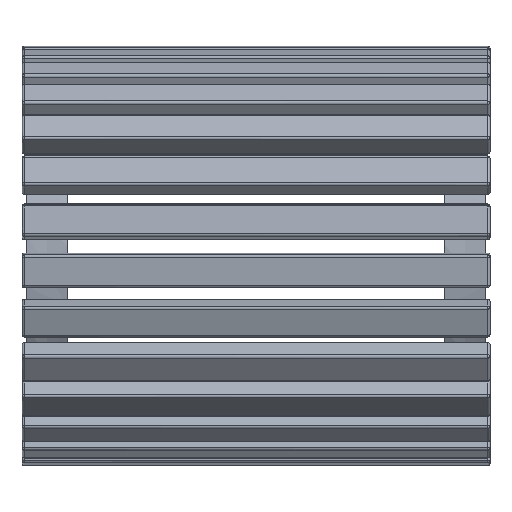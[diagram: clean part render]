
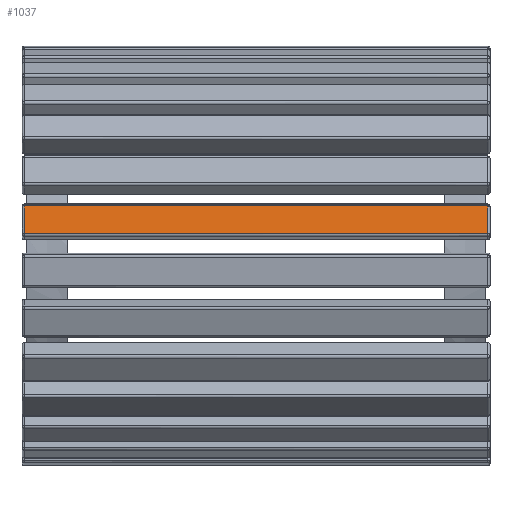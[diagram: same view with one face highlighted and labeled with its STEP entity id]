
A CAD part, top view. The second image highlights one B-rep face of the part: STEP entity #1037.
In plain terms, the highlighted planar face has unit normal (0, 0.16, 0.987).
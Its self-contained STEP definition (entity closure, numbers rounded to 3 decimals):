
#1037=ADVANCED_FACE('',(#1863),#11003,.T.);
#1863=FACE_OUTER_BOUND('',#2741,.T.);
#2741=EDGE_LOOP('',(#5004,#5005,#5006,#5007));
#5004=ORIENTED_EDGE('',*,*,#7491,.F.);
#5005=ORIENTED_EDGE('',*,*,#7495,.F.);
#5006=ORIENTED_EDGE('',*,*,#7505,.F.);
#5007=ORIENTED_EDGE('',*,*,#7498,.F.);
#7491=EDGE_CURVE('',#10507,#10503,#9405,.T.);
#7495=EDGE_CURVE('',#10498,#10507,#9409,.T.);
#7498=EDGE_CURVE('',#10503,#10490,#9412,.T.);
#7505=EDGE_CURVE('',#10490,#10498,#9419,.T.);
#9405=(
BOUNDED_CURVE()
B_SPLINE_CURVE(1,(#20972,#20973),.UNSPECIFIED.,.F.,.F.)
B_SPLINE_CURVE_WITH_KNOTS((2,2),(-144.,47.333),.UNSPECIFIED.)
CURVE()
GEOMETRIC_REPRESENTATION_ITEM()
RATIONAL_B_SPLINE_CURVE((1.,1.))
REPRESENTATION_ITEM('')
);
#9409=(
BOUNDED_CURVE()
B_SPLINE_CURVE(1,(#20980,#20981),.UNSPECIFIED.,.F.,.F.)
B_SPLINE_CURVE_WITH_KNOTS((2,2),(-9.5,2.5),
 .UNSPECIFIED.)
CURVE()
GEOMETRIC_REPRESENTATION_ITEM()
RATIONAL_B_SPLINE_CURVE((1.,1.))
REPRESENTATION_ITEM('')
);
#9412=(
BOUNDED_CURVE()
B_SPLINE_CURVE(1,(#20986,#20987),.UNSPECIFIED.,.F.,.F.)
B_SPLINE_CURVE_WITH_KNOTS((2,2),(-9.5,2.5),
 .UNSPECIFIED.)
CURVE()
GEOMETRIC_REPRESENTATION_ITEM()
RATIONAL_B_SPLINE_CURVE((1.,1.))
REPRESENTATION_ITEM('')
);
#9419=(
BOUNDED_CURVE()
B_SPLINE_CURVE(1,(#21000,#21001),.UNSPECIFIED.,.F.,.F.)
B_SPLINE_CURVE_WITH_KNOTS((2,2),(-144.,47.333),.UNSPECIFIED.)
CURVE()
GEOMETRIC_REPRESENTATION_ITEM()
RATIONAL_B_SPLINE_CURVE((1.,1.))
REPRESENTATION_ITEM('')
);
#10490=VERTEX_POINT('',#20880);
#10498=VERTEX_POINT('',#20888);
#10503=VERTEX_POINT('',#20893);
#10507=VERTEX_POINT('',#20897);
#11003=PLANE('',#11695);
#11695=AXIS2_PLACEMENT_3D('',#20863,#11818,$);
#11818=DIRECTION('',(0.,0.16,0.987));
#20863=CARTESIAN_POINT('',(577.01,286.956,628.096));
#20880=CARTESIAN_POINT('',(577.,286.966,628.094));
#20888=CARTESIAN_POINT('',(3.,286.966,628.094));
#20893=CARTESIAN_POINT('',(577.,321.463,622.519));
#20897=CARTESIAN_POINT('',(3.,321.463,622.519));
#20972=CARTESIAN_POINT('',(3.,321.463,622.519));
#20973=CARTESIAN_POINT('',(577.,321.463,622.519));
#20980=CARTESIAN_POINT('',(3.,286.966,628.094));
#20981=CARTESIAN_POINT('',(3.,321.463,622.519));
#20986=CARTESIAN_POINT('',(577.,321.463,622.519));
#20987=CARTESIAN_POINT('',(577.,286.966,628.094));
#21000=CARTESIAN_POINT('',(577.,286.966,628.094));
#21001=CARTESIAN_POINT('',(3.,286.966,628.094));
